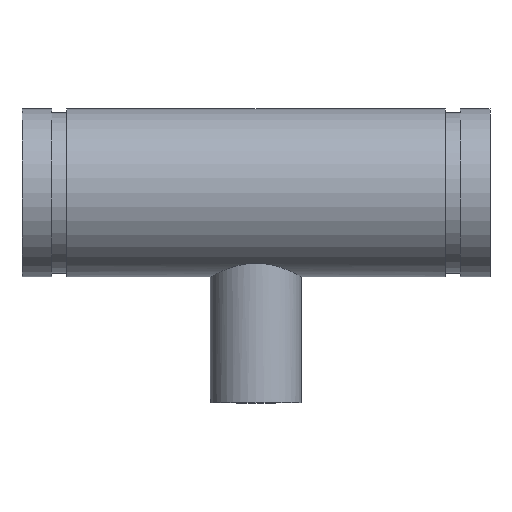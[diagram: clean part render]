
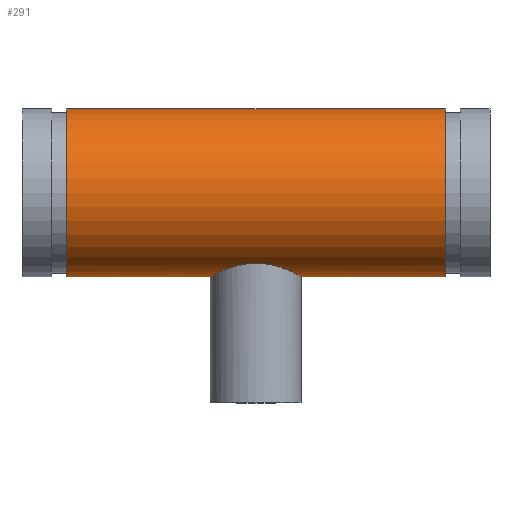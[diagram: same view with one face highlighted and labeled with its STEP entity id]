
A CAD part, top view. The second image highlights one B-rep face of the part: STEP entity #291.
In plain terms, the highlighted cylindrical face has radius 44.45 mm (diameter 88.9 mm), a full revolution.
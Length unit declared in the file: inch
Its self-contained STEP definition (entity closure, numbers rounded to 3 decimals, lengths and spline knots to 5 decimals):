
#45=B_SPLINE_CURVE_WITH_KNOTS('',3,(#511,#512,#513,#514,#515,#516,#517,
#518,#519,#520,#521,#522,#523,#524,#525,#526,#527,#528,#529,#530,#531,#532,
#533,#534,#535,#536,#537,#538,#539,#540,#541,#542,#543,#544,#545,#546,#547,
#548,#549,#550,#551,#552,#553,#554,#555,#556,#557,#558,#559,#560),
 .UNSPECIFIED.,.F.,.F.,(4,2,2,2,2,2,2,2,2,2,2,2,2,2,2,2,2,2,2,2,2,2,2,2,
4),(0.,0.46667,0.93334,1.40002,1.86669,
2.3315,2.79631,3.26112,3.72593,4.19074,
4.65555,5.12036,5.58517,6.05184,6.51852,
6.98519,7.45186,7.91853,8.38521,8.85188,
9.31855,9.78336,10.24817,10.71298,11.17779),
 .UNSPECIFIED.);
#46=B_SPLINE_CURVE_WITH_KNOTS('',3,(#561,#562,#563,#564,#565,#566,#567,
#568,#569,#570,#571,#572,#573,#574,#575,#576,#577,#578),.UNSPECIFIED.,.F.,
 .F.,(4,2,2,2,2,2,2,2,4),(11.17779,11.6426,12.10741,
12.57222,13.03703,13.5037,13.97038,14.43705,
14.90372),.UNSPECIFIED.);
#51=LINE('',#508,#59);
#59=VECTOR('',#410,1.75);
#67=CYLINDRICAL_SURFACE('',#338,1.75);
#77=FACE_BOUND('',#108,.T.);
#88=FACE_OUTER_BOUND('',#107,.T.);
#107=EDGE_LOOP('',(#221,#222,#223,#224));
#108=EDGE_LOOP('',(#225,#226));
#121=CIRCLE('',#321,1.75);
#132=CIRCLE('',#337,1.75);
#141=VERTEX_POINT('',#476);
#152=VERTEX_POINT('',#505);
#153=VERTEX_POINT('',#509);
#154=VERTEX_POINT('',#510);
#165=EDGE_CURVE('',#141,#141,#121,.T.);
#178=EDGE_CURVE('',#152,#152,#132,.T.);
#179=EDGE_CURVE('',#152,#141,#51,.T.);
#180=EDGE_CURVE('',#153,#154,#45,.T.);
#181=EDGE_CURVE('',#154,#153,#46,.T.);
#221=ORIENTED_EDGE('',*,*,#178,.T.);
#222=ORIENTED_EDGE('',*,*,#179,.T.);
#223=ORIENTED_EDGE('',*,*,#165,.T.);
#224=ORIENTED_EDGE('',*,*,#179,.F.);
#225=ORIENTED_EDGE('',*,*,#180,.F.);
#226=ORIENTED_EDGE('',*,*,#181,.F.);
#291=ADVANCED_FACE('',(#88,#77),#67,.T.);
#321=AXIS2_PLACEMENT_3D('',#477,#372,#373);
#337=AXIS2_PLACEMENT_3D('',#506,#406,#407);
#338=AXIS2_PLACEMENT_3D('',#507,#408,#409);
#372=DIRECTION('center_axis',(-1.,0.,0.));
#373=DIRECTION('ref_axis',(0.,-1.,0.));
#406=DIRECTION('center_axis',(1.,0.,0.));
#407=DIRECTION('ref_axis',(0.,-1.,0.));
#408=DIRECTION('center_axis',(-1.,0.,0.));
#409=DIRECTION('ref_axis',(0.,-1.,0.));
#410=DIRECTION('',(1.,0.,0.));
#476=CARTESIAN_POINT('',(3.942,1.75,0.));
#477=CARTESIAN_POINT('Origin',(3.942,0.,0.));
#505=CARTESIAN_POINT('',(-3.942,1.75,0.));
#506=CARTESIAN_POINT('Origin',(-3.942,0.,0.));
#507=CARTESIAN_POINT('Origin',(4.88,0.,0.));
#508=CARTESIAN_POINT('',(4.88,1.75,0.));
#509=CARTESIAN_POINT('',(0.,-1.46969,-0.95));
#510=CARTESIAN_POINT('',(-0.95,-1.75,0.));
#511=CARTESIAN_POINT('Ctrl Pts',(0.,-1.46969,
-0.95));
#512=CARTESIAN_POINT('Ctrl Pts',(0.06124,-1.46969,-0.95));
#513=CARTESIAN_POINT('Ctrl Pts',(0.124,-1.47364,-0.94399));
#514=CARTESIAN_POINT('Ctrl Pts',(0.24784,-1.48918,-0.91927));
#515=CARTESIAN_POINT('Ctrl Pts',(0.30893,-1.50075,-0.90058));
#516=CARTESIAN_POINT('Ctrl Pts',(0.42539,-1.52898,-0.85178));
#517=CARTESIAN_POINT('Ctrl Pts',(0.48089,-1.54562,-0.82163));
#518=CARTESIAN_POINT('Ctrl Pts',(0.58329,-1.58048,-0.75239));
#519=CARTESIAN_POINT('Ctrl Pts',(0.6302,-1.59866,-0.7133));
#520=CARTESIAN_POINT('Ctrl Pts',(0.71313,-1.63314,-0.63037));
#521=CARTESIAN_POINT('Ctrl Pts',(0.7522,-1.65072,-0.58354));
#522=CARTESIAN_POINT('Ctrl Pts',(0.8215,-1.68343,-0.4811));
#523=CARTESIAN_POINT('Ctrl Pts',(0.85174,-1.69853,-0.4255));
#524=CARTESIAN_POINT('Ctrl Pts',(0.90064,-1.72357,-0.30879));
#525=CARTESIAN_POINT('Ctrl Pts',(0.91935,-1.73352,-0.24758));
#526=CARTESIAN_POINT('Ctrl Pts',(0.94403,-1.74674,-0.12368));
#527=CARTESIAN_POINT('Ctrl Pts',(0.95,-1.75,-0.061));
#528=CARTESIAN_POINT('Ctrl Pts',(0.95,-1.75,0.061));
#529=CARTESIAN_POINT('Ctrl Pts',(0.94403,-1.74674,0.12368));
#530=CARTESIAN_POINT('Ctrl Pts',(0.91935,-1.73352,0.24758));
#531=CARTESIAN_POINT('Ctrl Pts',(0.90064,-1.72357,0.30879));
#532=CARTESIAN_POINT('Ctrl Pts',(0.85174,-1.69853,0.4255));
#533=CARTESIAN_POINT('Ctrl Pts',(0.8215,-1.68343,0.4811));
#534=CARTESIAN_POINT('Ctrl Pts',(0.7522,-1.65072,0.58354));
#535=CARTESIAN_POINT('Ctrl Pts',(0.71313,-1.63314,0.63037));
#536=CARTESIAN_POINT('Ctrl Pts',(0.6302,-1.59866,0.7133));
#537=CARTESIAN_POINT('Ctrl Pts',(0.58329,-1.58048,0.75239));
#538=CARTESIAN_POINT('Ctrl Pts',(0.48089,-1.54562,0.82163));
#539=CARTESIAN_POINT('Ctrl Pts',(0.42539,-1.52898,0.85178));
#540=CARTESIAN_POINT('Ctrl Pts',(0.30893,-1.50075,0.90058));
#541=CARTESIAN_POINT('Ctrl Pts',(0.24784,-1.48918,0.91927));
#542=CARTESIAN_POINT('Ctrl Pts',(0.124,-1.47364,0.94399));
#543=CARTESIAN_POINT('Ctrl Pts',(0.06124,-1.46969,0.95));
#544=CARTESIAN_POINT('Ctrl Pts',(-0.06124,-1.46969,
0.95));
#545=CARTESIAN_POINT('Ctrl Pts',(-0.124,-1.47364,0.94399));
#546=CARTESIAN_POINT('Ctrl Pts',(-0.24784,-1.48918,0.91927));
#547=CARTESIAN_POINT('Ctrl Pts',(-0.30893,-1.50075,0.90058));
#548=CARTESIAN_POINT('Ctrl Pts',(-0.42539,-1.52898,0.85178));
#549=CARTESIAN_POINT('Ctrl Pts',(-0.48089,-1.54562,0.82163));
#550=CARTESIAN_POINT('Ctrl Pts',(-0.58329,-1.58048,0.75239));
#551=CARTESIAN_POINT('Ctrl Pts',(-0.6302,-1.59866,0.7133));
#552=CARTESIAN_POINT('Ctrl Pts',(-0.71313,-1.63314,0.63037));
#553=CARTESIAN_POINT('Ctrl Pts',(-0.7522,-1.65072,0.58354));
#554=CARTESIAN_POINT('Ctrl Pts',(-0.8215,-1.68343,0.4811));
#555=CARTESIAN_POINT('Ctrl Pts',(-0.85174,-1.69853,0.4255));
#556=CARTESIAN_POINT('Ctrl Pts',(-0.90064,-1.72357,0.30879));
#557=CARTESIAN_POINT('Ctrl Pts',(-0.91935,-1.73352,0.24758));
#558=CARTESIAN_POINT('Ctrl Pts',(-0.94403,-1.74674,0.12368));
#559=CARTESIAN_POINT('Ctrl Pts',(-0.95,-1.75,0.061));
#560=CARTESIAN_POINT('Ctrl Pts',(-0.95,-1.75,0.));
#561=CARTESIAN_POINT('Ctrl Pts',(-0.95,-1.75,0.));
#562=CARTESIAN_POINT('Ctrl Pts',(-0.95,-1.75,-0.061));
#563=CARTESIAN_POINT('Ctrl Pts',(-0.94403,-1.74674,-0.12368));
#564=CARTESIAN_POINT('Ctrl Pts',(-0.91935,-1.73352,-0.24758));
#565=CARTESIAN_POINT('Ctrl Pts',(-0.90064,-1.72357,-0.30879));
#566=CARTESIAN_POINT('Ctrl Pts',(-0.85174,-1.69853,-0.4255));
#567=CARTESIAN_POINT('Ctrl Pts',(-0.8215,-1.68343,-0.4811));
#568=CARTESIAN_POINT('Ctrl Pts',(-0.7522,-1.65072,-0.58354));
#569=CARTESIAN_POINT('Ctrl Pts',(-0.71313,-1.63314,-0.63037));
#570=CARTESIAN_POINT('Ctrl Pts',(-0.6302,-1.59866,-0.7133));
#571=CARTESIAN_POINT('Ctrl Pts',(-0.58329,-1.58048,-0.75239));
#572=CARTESIAN_POINT('Ctrl Pts',(-0.48089,-1.54562,-0.82163));
#573=CARTESIAN_POINT('Ctrl Pts',(-0.42539,-1.52898,-0.85178));
#574=CARTESIAN_POINT('Ctrl Pts',(-0.30893,-1.50075,-0.90058));
#575=CARTESIAN_POINT('Ctrl Pts',(-0.24784,-1.48918,-0.91927));
#576=CARTESIAN_POINT('Ctrl Pts',(-0.124,-1.47364,-0.94399));
#577=CARTESIAN_POINT('Ctrl Pts',(-0.06124,-1.46969,
-0.95));
#578=CARTESIAN_POINT('Ctrl Pts',(0.,-1.46969,
-0.95));
